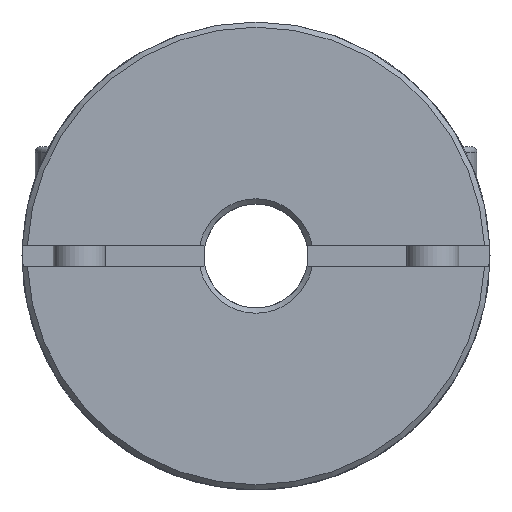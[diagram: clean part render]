
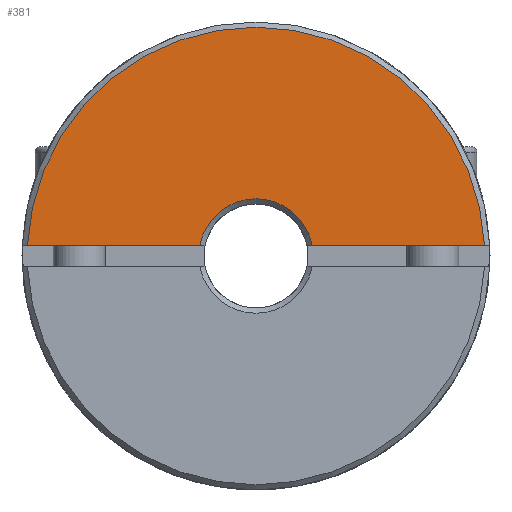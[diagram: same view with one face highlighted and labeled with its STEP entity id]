
A CAD part, left-side view. The second image highlights one B-rep face of the part: STEP entity #381.
In plain terms, the highlighted planar face has unit normal (-1, 0, 0) as drawn and (1, 0, 0) by its records, which use the part's own axes.
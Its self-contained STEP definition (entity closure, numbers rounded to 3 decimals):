
#381 = ADVANCED_FACE( '', ( #764 ), #765, .T. );
#764 = FACE_OUTER_BOUND( '', #1163, .T. );
#765 = PLANE( '', #1164 );
#1163 = EDGE_LOOP( '', ( #1759, #1760, #1761, #1762 ) );
#1164 = AXIS2_PLACEMENT_3D( '', #1763, #1764, #1765 );
#1759 = ORIENTED_EDGE( '', *, *, #2176, .F. );
#1760 = ORIENTED_EDGE( '', *, *, #2118, .T. );
#1761 = ORIENTED_EDGE( '', *, *, #2087, .F. );
#1762 = ORIENTED_EDGE( '', *, *, #2177, .T. );
#1763 = CARTESIAN_POINT( '', ( 17.5, 0., 22.5 ) );
#1764 = DIRECTION( '', ( 1., 0., 0. ) );
#1765 = DIRECTION( '', ( 0., 0., -1. ) );
#2087 = EDGE_CURVE( '', #2403, #2404, #2405, .T. );
#2118 = EDGE_CURVE( '', #2451, #2404, #2452, .T. );
#2176 = EDGE_CURVE( '', #2451, #2524, #2525, .T. );
#2177 = EDGE_CURVE( '', #2403, #2524, #2526, .F. );
#2403 = VERTEX_POINT( '', #2896 );
#2404 = VERTEX_POINT( '', #2897 );
#2405 = LINE( '', #2898, #2899 );
#2451 = VERTEX_POINT( '', #2966 );
#2452 = CIRCLE( '', #2967, 22. );
#2524 = VERTEX_POINT( '', #3130 );
#2525 = LINE( '', #3131, #3132 );
#2526 = CIRCLE( '', #3133, 5.5 );
#2896 = CARTESIAN_POINT( '', ( 17.5, -5.408, 1. ) );
#2897 = CARTESIAN_POINT( '', ( 17.5, -21.977, 1. ) );
#2898 = CARTESIAN_POINT( '', ( 17.5, 0., 1. ) );
#2899 = VECTOR( '', #3439, 1000. );
#2966 = CARTESIAN_POINT( '', ( 17.5, 21.977, 1. ) );
#2967 = AXIS2_PLACEMENT_3D( '', #3473, #3474, #3475 );
#3130 = CARTESIAN_POINT( '', ( 17.5, 5.408, 1. ) );
#3131 = CARTESIAN_POINT( '', ( 17.5, 0., 1. ) );
#3132 = VECTOR( '', #3540, 1000. );
#3133 = AXIS2_PLACEMENT_3D( '', #3541, #3542, #3543 );
#3439 = DIRECTION( '', ( 0., -1., 0. ) );
#3473 = CARTESIAN_POINT( '', ( 17.5, 0., 0. ) );
#3474 = DIRECTION( '', ( 1., 0., 0. ) );
#3475 = DIRECTION( '', ( 0., 0., -1. ) );
#3540 = DIRECTION( '', ( 0., -1., 0. ) );
#3541 = CARTESIAN_POINT( '', ( 17.5, 0., 0. ) );
#3542 = DIRECTION( '', ( 1., 0., 0. ) );
#3543 = DIRECTION( '', ( 0., 0., -1. ) );
